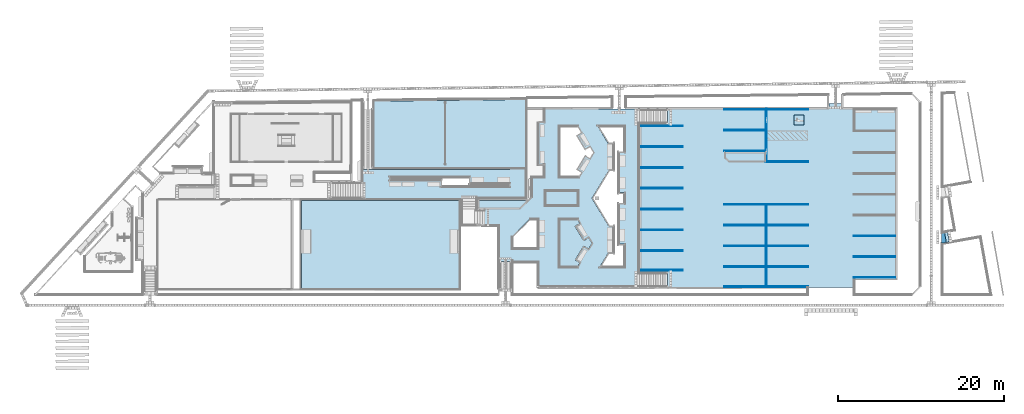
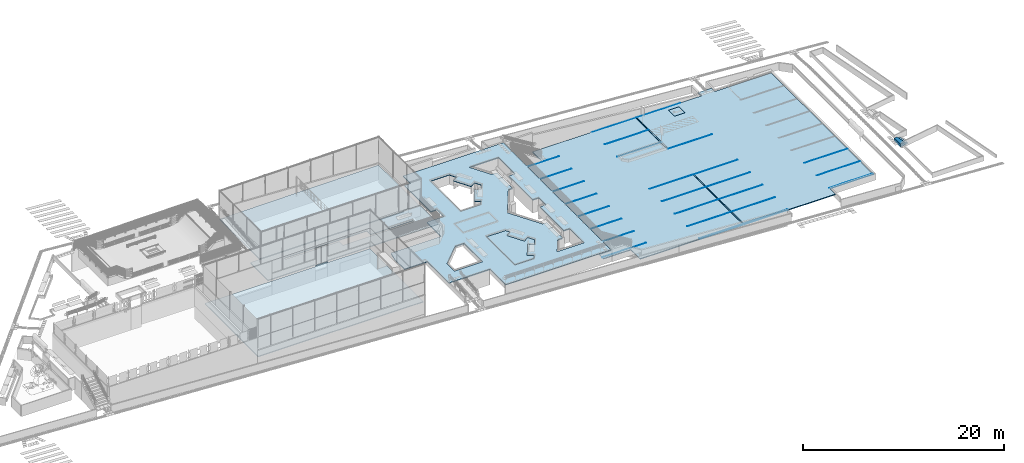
# One storey, part 14 of 237: 37 slabs, 5 openings.
"""IFC2X3 building model written with IfcOpenShell, lengths in millimetres."""

from ifc_helpers import new_model, entity, si_unit, converted_unit, derived_unit, money_unit, direction, frame, origin_with_axes, place, context, subcontext, project, spatial, polyline, outline, extrude, material, layer, layer_set, layer_usage, type_object, element, save


model = new_model("IFC2X3")

# Units and contexts
model_context = context("Model", 3, precision=0.01, world=origin_with_axes(), true_north=direction((0.0, 1.0)))
body_context = subcontext(model_context, "Body", "Model", "MODEL_VIEW")
ifc_project = project(units=[si_unit("LENGTHUNIT", "METRE", prefix="MILLI"), si_unit("AREAUNIT", "SQUARE_METRE"), si_unit("VOLUMEUNIT", "CUBIC_METRE"), converted_unit("PLANEANGLEUNIT", "DEGREE", entity("IfcPlaneAngleMeasure", 0.0174532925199), si_unit("PLANEANGLEUNIT", "RADIAN"), dimensions=[0, 0, 0, 0, 0, 0, 0]), money_unit("USD"), converted_unit("TIMEUNIT", "Year", entity("IfcTimeMeasure", 31556926.0), si_unit("TIMEUNIT", "SECOND"), dimensions=[0, 0, 1, 0, 0, 0, 0]), si_unit("MASSUNIT", "GRAM", prefix="KILO"), si_unit("THERMODYNAMICTEMPERATUREUNIT", "DEGREE_CELSIUS"), si_unit("LUMINOUSINTENSITYUNIT", "LUMEN"), si_unit("ENERGYUNIT", "JOULE", prefix="MEGA"), derived_unit("THERMALCONDUCTANCEUNIT", [(si_unit("POWERUNIT", "WATT"), 1), (si_unit("LENGTHUNIT", "METRE"), -1), (si_unit("THERMODYNAMICTEMPERATUREUNIT", "KELVIN"), -1)]), derived_unit("SPECIFICHEATCAPACITYUNIT", [(si_unit("ENERGYUNIT", "JOULE"), 1), (si_unit("MASSUNIT", "GRAM", prefix="KILO"), -1), (si_unit("THERMODYNAMICTEMPERATUREUNIT", "KELVIN"), -1)]), derived_unit("MASSDENSITYUNIT", [(si_unit("MASSUNIT", "GRAM", prefix="KILO"), 1), (si_unit("VOLUMEUNIT", "CUBIC_METRE"), -1)])], contexts=[model_context])

# Site, building, storey
site_placement = place(None, origin_with_axes())
site = spatial("IfcSite", under=ifc_project, at=site_placement, Name="Local", CompositionType="ELEMENT")
building_placement = place(site_placement, origin_with_axes())
building = spatial("IfcBuilding", under=site, at=building_placement, Name="Construção", CompositionType="ELEMENT")
storey_placement = place(building_placement, origin_with_axes())
storey = spatial("IfcBuildingStorey", under=building, at=storey_placement, Name="Pavimento Térreo", CompositionType="ELEMENT", Elevation=0.0)

# Slabs
ifc_material_1 = material(Name="Concreto")
ifc_layer_1 = layer(ifc_material_1, 10.0, ventilated="UNKNOWN")
ifc_layer_set_1 = layer_set([ifc_layer_1], Name="Concreto 10")
ifc_layer_usage_1 = layer_usage(ifc_layer_set_1, "AXIS3", "NEGATIVE", 10.0)
slab_type_1 = type_object("IfcSlabType", Name="Concreto 10", PredefinedType="FLOOR")
slab_1_placement = place(storey_placement, frame((105463.767403, 32451.4208928, -7265.0), z_axis=(0.0, 0.0, 1.0), x_axis=(1.0, 0.0, 0.0)))
element("IfcSlab", 1, at=slab_1_placement, inside=storey, type_object=slab_type_1, material=ifc_layer_usage_1, Name="Laje-023", PredefinedType="FLOOR", context=body_context, shape_type="SweptSolid", body=[
    extrude(outline(polyline([(0.0, 0.0), (-4999.90129339, 0.000986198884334), (-4999.90129339, -99.9989884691), (-0.000987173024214, -99.9999746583), (0.0, 0.0)])), frame((0.0, 0.0, -10.0), z_axis=(0.0, 0.0, 1.0), x_axis=(1.0, 0.0, 0.0)), (0.0, 0.0, 1.0), 10.0),
])
ifc_layer_usage_2 = layer_usage(ifc_layer_set_1, "AXIS3", "NEGATIVE", 10.0)
slab_2_placement = place(storey_placement, frame((115526.346992, 34448.6706914, -7260.0), z_axis=(0.0, 0.0, 1.0), x_axis=(1.0, 0.0, 0.0)))
element("IfcSlab", 2, at=slab_2_placement, inside=storey, type_object=slab_type_1, material=ifc_layer_usage_2, Name="Laje-023", PredefinedType="FLOOR", context=body_context, shape_type="SweptSolid", body=[
    extrude(outline(polyline([(0.0, 0.0), (-5086.47828093, 1.32356694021), (-5086.47828093, -98.6764077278), (0.0, -98.6764077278), (0.0, 0.0)])), frame((0.0, 0.0, -10.0), z_axis=(0.0, 0.0, 1.0), x_axis=(1.0, 0.0, 0.0)), (0.0, 0.0, 1.0), 10.0),
])
ifc_layer_usage_3 = layer_usage(ifc_layer_set_1, "AXIS3", "NEGATIVE", 10.0)
slab_3_placement = place(storey_placement, frame((105464.001018, 15094.4967771, -7265.0), z_axis=(0.0, 0.0, 1.0), x_axis=(1.0, 0.0, 0.0)))
element("IfcSlab", 3, at=slab_3_placement, inside=storey, type_object=slab_type_1, material=ifc_layer_usage_3, Name="Laje-023", PredefinedType="FLOOR", context=body_context, shape_type="SweptSolid", body=[
    extrude(outline(polyline([(0.0, 0.0), (-4999.90129339, 0.000986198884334), (-4999.90129339, -99.9989884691), (-0.000987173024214, -99.9999746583), (0.0, 0.0)])), frame((0.0, 0.0, -10.0), z_axis=(0.0, 0.0, 1.0), x_axis=(1.0, 0.0, 0.0)), (0.0, 0.0, 1.0), 10.0),
])
ifc_layer_usage_4 = layer_usage(ifc_layer_set_1, "AXIS3", "NEGATIVE", 10.0)
slab_4_placement = place(storey_placement, frame((115517.807364, 18011.0372034, -7260.0), z_axis=(0.0, 0.0, 1.0), x_axis=(1.0, 0.0, 0.0)))
element("IfcSlab", 4, at=slab_4_placement, inside=storey, type_object=slab_type_1, material=ifc_layer_usage_4, Name="Laje-023", PredefinedType="FLOOR", context=body_context, shape_type="SweptSolid", body=[
    extrude(outline(polyline([(0.0, 0.0), (0.0, -99.9999863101), (5049.47162906, -99.9999863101), (5049.47159418, 1.7258656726e-05), (0.0, 0.0)])), frame((0.0, 0.0, -10.0), z_axis=(0.0, 0.0, 1.0), x_axis=(1.0, 0.0, 0.0)), (0.0, 0.0, 1.0), 10.0),
])
ifc_layer_usage_5 = layer_usage(ifc_layer_set_1, "AXIS3", "NEGATIVE", 10.0)
slab_5_placement = place(storey_placement, frame((115510.492005, 23011.0307098, -7260.0), z_axis=(0.0, 0.0, 1.0), x_axis=(1.0, 0.0, 0.0)))
element("IfcSlab", 5, at=slab_5_placement, inside=storey, type_object=slab_type_1, material=ifc_layer_usage_5, Name="Laje-023", PredefinedType="FLOOR", context=body_context, shape_type="SweptSolid", body=[
    extrude(outline(polyline([(0.0, 0.0), (-5043.21136178, 0.000986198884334), (-5043.21136178, -99.9989884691), (-0.000987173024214, -99.9999746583), (0.0, 0.0)])), frame((0.0, 0.0, -10.0), z_axis=(0.0, 0.0, 1.0), x_axis=(1.0, 0.0, 0.0)), (0.0, 0.0, 1.0), 10.0),
])
ifc_layer_usage_6 = layer_usage(ifc_layer_set_1, "AXIS3", "NEGATIVE", 10.0)
slab_6_placement = place(storey_placement, frame((120567.280667, 34449.9942584, -7260.0), z_axis=(0.0, 0.0, 1.0), x_axis=(1.0, 0.0, 0.0)))
element("IfcSlab", 6, at=slab_6_placement, inside=storey, type_object=slab_type_1, material=ifc_layer_usage_6, Name="Laje-023", PredefinedType="FLOOR", context=body_context, shape_type="SweptSolid", body=[
    extrude(outline(polyline([(0.0, 0.0), (-5000.0, 0.0), (-5000.0, -99.999974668), (0.0, -99.999974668), (0.0, 0.0)])), frame((0.0, 0.0, -10.0), z_axis=(0.0, 0.0, 1.0), x_axis=(1.0, 0.0, 0.0)), (0.0, 0.0, 1.0), 10.0),
])
ifc_layer_usage_7 = layer_usage(ifc_layer_set_1, "AXIS3", "NEGATIVE", 10.0)
slab_7_placement = place(storey_placement, frame((115517.280643, 29449.994309, -7260.0), z_axis=(0.0, 0.0, 1.0), x_axis=(1.0, 0.0, 0.0)))
element("IfcSlab", 7, at=slab_7_placement, inside=storey, type_object=slab_type_1, material=ifc_layer_usage_7, Name="Laje-023", PredefinedType="FLOOR", context=body_context, shape_type="SweptSolid", body=[
    extrude(outline(polyline([(0.0, 0.0), (-5050.0, 0.0), (-5050.0, -99.999974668), (0.0, -99.999974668), (0.0, 0.0)])), frame((0.0, 0.0, -10.0), z_axis=(0.0, 0.0, 1.0), x_axis=(1.0, 0.0, 0.0)), (0.0, 0.0, 1.0), 10.0),
])
ifc_layer_usage_8 = layer_usage(ifc_layer_set_1, "AXIS3", "NEGATIVE", 10.0)
slab_8_placement = place(storey_placement, frame((131063.866073, 14222.7429127, -7269.1909271), z_axis=(0.0, 0.0, 1.0), x_axis=(1.0, 0.0, 0.0)))
element("IfcSlab", 8, at=slab_8_placement, inside=storey, type_object=slab_type_1, material=ifc_layer_usage_8, Name="Laje-023", PredefinedType="FLOOR", context=body_context, shape_type="SweptSolid", body=[
    extrude(outline(polyline([(0.0, 0.0), (-5000.0, 0.0), (-5000.0, -99.999974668), (0.0, -99.999974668), (0.0, 0.0)])), frame((0.0, 0.0, -10.0), z_axis=(0.0, 0.0, 1.0), x_axis=(1.0, 0.0, 0.0)), (0.0, 0.0, 1.0), 10.0),
])
ifc_layer_usage_9 = layer_usage(ifc_layer_set_1, "AXIS3", "NEGATIVE", 10.0)
slab_9_placement = place(storey_placement, frame((115517.280643, 31949.9942837, -7260.0), z_axis=(0.0, 0.0, 1.0), x_axis=(1.0, 0.0, 0.0)))
element("IfcSlab", 9, at=slab_9_placement, inside=storey, type_object=slab_type_1, material=ifc_layer_usage_9, Name="Laje-023", PredefinedType="FLOOR", context=body_context, shape_type="SweptSolid", body=[
    extrude(outline(polyline([(0.0, 0.0), (-5050.0, 0.0), (-5050.0, -99.999974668), (0.0, -99.999974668), (0.0, 0.0)])), frame((0.0, 0.0, -10.0), z_axis=(0.0, 0.0, 1.0), x_axis=(1.0, 0.0, 0.0)), (0.0, 0.0, 1.0), 10.0),
])
ifc_layer_usage_10 = layer_usage(ifc_layer_set_1, "AXIS3", "NEGATIVE", 10.0)
slab_10_placement = place(storey_placement, frame((115517.713784, 15511.0371935, -7260.0), z_axis=(0.0, 0.0, 1.0), x_axis=(1.0, 0.0, 0.0)))
element("IfcSlab", 10, at=slab_10_placement, inside=storey, type_object=slab_type_1, material=ifc_layer_usage_10, Name="Laje-023", PredefinedType="FLOOR", context=body_context, shape_type="SweptSolid", body=[
    extrude(outline(polyline([(0.0, 0.0), (-5050.43314015, 0.000986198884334), (-5050.43314015, -99.9989884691), (-0.000987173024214, -99.9999746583), (0.0, 0.0)])), frame((0.0, 0.0, -10.0), z_axis=(0.0, 0.0, 1.0), x_axis=(1.0, 0.0, 0.0)), (0.0, 0.0, 1.0), 10.0),
])
ifc_layer_usage_11 = layer_usage(ifc_layer_set_1, "AXIS3", "NEGATIVE", 10.0)
slab_11_placement = place(storey_placement, frame((115517.712796, 13094.5098924, -7264.59114242), z_axis=(0.0, 0.0, 1.0), x_axis=(1.0, 0.0, 0.0)))
element("IfcSlab", 11, at=slab_11_placement, inside=storey, type_object=slab_type_1, material=ifc_layer_usage_11, Name="Laje-023", PredefinedType="FLOOR", context=body_context, shape_type="SweptSolid", body=[
    extrude(outline(polyline([(0.0, 0.0), (0.0, -100.000012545), (5049.56794002, -100.189026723), (5049.56787728, -3.20542330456e-05), (0.0, 0.0)])), frame((0.0, 0.0, -10.0), z_axis=(0.0, 0.0, 1.0), x_axis=(1.0, 0.0, 0.0)), (0.0, 0.0, 1.0), 10.0),
])
ifc_layer_usage_12 = layer_usage(ifc_layer_set_1, "AXIS3", "NEGATIVE", 10.0)
slab_12_placement = place(storey_placement, frame((120567.277214, 23011.0297435, -7260.0), z_axis=(0.0, 0.0, 1.0), x_axis=(1.0, 0.0, 0.0)))
element("IfcSlab", 12, at=slab_12_placement, inside=storey, type_object=slab_type_1, material=ifc_layer_usage_12, Name="Laje-023", PredefinedType="FLOOR", context=body_context, shape_type="SweptSolid", body=[
    extrude(outline(polyline([(0.0, 0.0), (-5056.78619618, 0.000966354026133), (-5056.78619618, -99.999008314), (3.48859856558e-05, -99.9999746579), (0.0, 0.0)])), frame((0.0, 0.0, -10.0), z_axis=(0.0, 0.0, 1.0), x_axis=(1.0, 0.0, 0.0)), (0.0, 0.0, 1.0), 10.0),
])
ifc_layer_usage_13 = layer_usage(ifc_layer_set_1, "AXIS3", "NEGATIVE", 10.0)
slab_13_placement = place(storey_placement, frame((115517.712796, 15511.0372141, -7260.0), z_axis=(0.0, 0.0, 1.0), x_axis=(1.0, 0.0, 0.0)))
element("IfcSlab", 13, at=slab_13_placement, inside=storey, type_object=slab_type_1, material=ifc_layer_usage_13, Name="Laje-023", PredefinedType="FLOOR", context=body_context, shape_type="SweptSolid", body=[
    extrude(outline(polyline([(0.0, 0.0), (0.0, -99.9999952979), (5049.56706914, -99.9999952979), (5049.56703425, 1.72919509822e-05), (0.0, 0.0)])), frame((0.0, 0.0, -10.0), z_axis=(0.0, 0.0, 1.0), x_axis=(1.0, 0.0, 0.0)), (0.0, 0.0, 1.0), 10.0),
])
ifc_layer_usage_14 = layer_usage(ifc_layer_set_1, "AXIS3", "NEGATIVE", 10.0)
slab_14_placement = place(storey_placement, frame((115517.713784, 13094.5098018, -7260.0), z_axis=(0.0, 0.0, 1.0), x_axis=(1.0, 0.0, 0.0)))
element("IfcSlab", 14, at=slab_14_placement, inside=storey, type_object=slab_type_1, material=ifc_layer_usage_14, Name="Laje-023", PredefinedType="FLOOR", context=body_context, shape_type="SweptSolid", body=[
    extrude(outline(polyline([(0.0, 0.0), (-5050.43314015, 0.000986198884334), (-5050.43314015, -99.9999161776), (-0.000987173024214, -99.9999746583), (0.0, 0.0)])), frame((0.0, 0.0, -10.0), z_axis=(0.0, 0.0, 1.0), x_axis=(1.0, 0.0, 0.0)), (0.0, 0.0, 1.0), 10.0),
])
ifc_layer_usage_15 = layer_usage(ifc_layer_set_1, "AXIS3", "NEGATIVE", 10.0)
slab_15_placement = place(storey_placement, frame((115467.280693, 12994.5098857, -7260.0), z_axis=(0.0, 0.0, 1.0), x_axis=(1.0, 0.0, 0.0)))
element("IfcSlab", 15, at=slab_15_placement, inside=storey, type_object=slab_type_1, material=ifc_layer_usage_15, Name="Laje-023", PredefinedType="FLOOR", context=body_context, shape_type="SweptSolid", body=[
    extrude(outline(polyline([(0.0, 0.0), (99.9999795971, 0.0), (100.000128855, 10016.520813), (3.79869715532, 10016.5208319), (0.0, 0.0)])), frame((0.0, 0.0, -10.0), z_axis=(0.0, 0.0, 1.0), x_axis=(1.0, 0.0, 0.0)), (0.0, 0.0, 1.0), 10.0),
])
ifc_layer_usage_16 = layer_usage(ifc_layer_set_1, "AXIS3", "NEGATIVE", 10.0)
slab_16_placement = place(storey_placement, frame((115517.808352, 18011.0371917, -7260.0), z_axis=(0.0, 0.0, 1.0), x_axis=(1.0, 0.0, 0.0)))
element("IfcSlab", 16, at=slab_16_placement, inside=storey, type_object=slab_type_1, material=ifc_layer_usage_16, Name="Laje-023", PredefinedType="FLOOR", context=body_context, shape_type="SweptSolid", body=[
    extrude(outline(polyline([(0.0, 0.0), (-5050.52770808, 0.000986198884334), (-5050.52770808, -99.9989884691), (-0.000987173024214, -99.9999746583), (0.0, 0.0)])), frame((0.0, 0.0, -10.0), z_axis=(0.0, 0.0, 1.0), x_axis=(1.0, 0.0, 0.0)), (0.0, 0.0, 1.0), 10.0),
])
ifc_layer_usage_17 = layer_usage(ifc_layer_set_1, "AXIS3", "NEGATIVE", 10.0)
slab_17_placement = place(storey_placement, frame((115512.470154, 20511.0314924, -7260.0), z_axis=(0.0, 0.0, 1.0), x_axis=(1.0, 0.0, 0.0)))
element("IfcSlab", 17, at=slab_17_placement, inside=storey, type_object=slab_type_1, material=ifc_layer_usage_17, Name="Laje-023", PredefinedType="FLOOR", context=body_context, shape_type="SweptSolid", body=[
    extrude(outline(polyline([(0.0, 0.0), (-5045.18951068, 0.000986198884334), (-5045.18951068, -99.9989884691), (-0.000987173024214, -99.9999746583), (0.0, 0.0)])), frame((0.0, 0.0, -10.0), z_axis=(0.0, 0.0, 1.0), x_axis=(1.0, 0.0, 0.0)), (0.0, 0.0, 1.0), 10.0),
])
ifc_layer_usage_18 = layer_usage(ifc_layer_set_1, "AXIS3", "NEGATIVE", 10.0)
slab_18_placement = place(storey_placement, frame((131063.866073, 16719.743985, -7269.1909271), z_axis=(0.0, 0.0, 1.0), x_axis=(1.0, 0.0, 0.0)))
element("IfcSlab", 18, at=slab_18_placement, inside=storey, type_object=slab_type_1, material=ifc_layer_usage_18, Name="Laje-023", PredefinedType="FLOOR", context=body_context, shape_type="SweptSolid", body=[
    extrude(outline(polyline([(0.0, 0.0), (-5000.0, 0.0), (-5000.0, -99.999974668), (0.0, -99.999974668), (0.0, 0.0)])), frame((0.0, 0.0, -10.0), z_axis=(0.0, 0.0, 1.0), x_axis=(1.0, 0.0, 0.0)), (0.0, 0.0, 1.0), 10.0),
])
ifc_layer_usage_19 = layer_usage(ifc_layer_set_1, "AXIS3", "NEGATIVE", 10.0)
slab_19_placement = place(storey_placement, frame((131063.866073, 19219.743985, -7269.1909271), z_axis=(0.0, 0.0, 1.0), x_axis=(1.0, 0.0, 0.0)))
element("IfcSlab", 19, at=slab_19_placement, inside=storey, type_object=slab_type_1, material=ifc_layer_usage_19, Name="Laje-023", PredefinedType="FLOOR", context=body_context, shape_type="SweptSolid", body=[
    extrude(outline(polyline([(0.0, 0.0), (-5000.0, 0.0), (-5000.0, -99.999974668), (0.0, -99.999974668), (0.0, 0.0)])), frame((0.0, 0.0, -10.0), z_axis=(0.0, 0.0, 1.0), x_axis=(1.0, 0.0, 0.0)), (0.0, 0.0, 1.0), 10.0),
])
ifc_layer_usage_20 = layer_usage(ifc_layer_set_1, "AXIS3", "NEGATIVE", 10.0)
slab_20_placement = place(storey_placement, frame((115512.469167, 20511.031464, -7260.0), z_axis=(0.0, 0.0, 1.0), x_axis=(1.0, 0.0, 0.0)))
element("IfcSlab", 20, at=slab_20_placement, inside=storey, type_object=slab_type_1, material=ifc_layer_usage_20, Name="Laje-023", PredefinedType="FLOOR", context=body_context, shape_type="SweptSolid", body=[
    extrude(outline(polyline([(0.0, 0.0), (0.0, -99.9999340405), (5054.80895431, -100.000913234), (5054.80891942, -0.000960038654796), (0.0, 0.0)])), frame((0.0, 0.0, -10.0), z_axis=(0.0, 0.0, 1.0), x_axis=(1.0, 0.0, 0.0)), (0.0, 0.0, 1.0), 10.0),
])
ifc_layer_usage_21 = layer_usage(ifc_layer_set_1, "AXIS3", "NEGATIVE", 10.0)
slab_21_placement = place(storey_placement, frame((105463.76691, 29951.4208928, -7265.0), z_axis=(0.0, 0.0, 1.0), x_axis=(1.0, 0.0, 0.0)))
element("IfcSlab", 21, at=slab_21_placement, inside=storey, type_object=slab_type_1, material=ifc_layer_usage_21, Name="Laje-023", PredefinedType="FLOOR", context=body_context, shape_type="SweptSolid", body=[
    extrude(outline(polyline([(0.0, 0.0), (-4999.90129339, 0.000986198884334), (-4999.90129339, -99.9989884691), (-0.000987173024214, -99.9999746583), (0.0, 0.0)])), frame((0.0, 0.0, -10.0), z_axis=(0.0, 0.0, 1.0), x_axis=(1.0, 0.0, 0.0)), (0.0, 0.0, 1.0), 10.0),
])
ifc_layer_usage_22 = layer_usage(ifc_layer_set_1, "AXIS3", "NEGATIVE", 10.0)
slab_22_placement = place(storey_placement, frame((105463.764445, 17451.4208928, -7265.0), z_axis=(0.0, 0.0, 1.0), x_axis=(1.0, 0.0, 0.0)))
element("IfcSlab", 22, at=slab_22_placement, inside=storey, type_object=slab_type_1, material=ifc_layer_usage_22, Name="Laje-023", PredefinedType="FLOOR", context=body_context, shape_type="SweptSolid", body=[
    extrude(outline(polyline([(0.0, 0.0), (-4999.90129339, 0.000986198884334), (-4999.90129339, -99.9989884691), (-0.000987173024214, -99.9999746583), (0.0, 0.0)])), frame((0.0, 0.0, -10.0), z_axis=(0.0, 0.0, 1.0), x_axis=(1.0, 0.0, 0.0)), (0.0, 0.0, 1.0), 10.0),
])
ifc_layer_usage_23 = layer_usage(ifc_layer_set_1, "AXIS3", "NEGATIVE", 10.0)
slab_23_placement = place(storey_placement, frame((105463.764938, 19951.4208928, -7265.0), z_axis=(0.0, 0.0, 1.0), x_axis=(1.0, 0.0, 0.0)))
element("IfcSlab", 23, at=slab_23_placement, inside=storey, type_object=slab_type_1, material=ifc_layer_usage_23, Name="Laje-023", PredefinedType="FLOOR", context=body_context, shape_type="SweptSolid", body=[
    extrude(outline(polyline([(0.0, 0.0), (-4999.90129339, 0.000986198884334), (-4999.90129339, -99.9989884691), (-0.000987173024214, -99.9999746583), (0.0, 0.0)])), frame((0.0, 0.0, -10.0), z_axis=(0.0, 0.0, 1.0), x_axis=(1.0, 0.0, 0.0)), (0.0, 0.0, 1.0), 10.0),
])
ifc_layer_usage_24 = layer_usage(ifc_layer_set_1, "AXIS3", "NEGATIVE", 10.0)
slab_24_placement = place(storey_placement, frame((105463.765431, 22451.4208928, -7265.0), z_axis=(0.0, 0.0, 1.0), x_axis=(1.0, 0.0, 0.0)))
element("IfcSlab", 24, at=slab_24_placement, inside=storey, type_object=slab_type_1, material=ifc_layer_usage_24, Name="Laje-023", PredefinedType="FLOOR", context=body_context, shape_type="SweptSolid", body=[
    extrude(outline(polyline([(0.0, 0.0), (-4999.90129339, 0.000986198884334), (-4999.90129339, -99.9989884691), (-0.000987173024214, -99.9999746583), (0.0, 0.0)])), frame((0.0, 0.0, -10.0), z_axis=(0.0, 0.0, 1.0), x_axis=(1.0, 0.0, 0.0)), (0.0, 0.0, 1.0), 10.0),
])
ifc_layer_usage_25 = layer_usage(ifc_layer_set_1, "AXIS3", "NEGATIVE", 10.0)
slab_25_placement = place(storey_placement, frame((105463.765924, 24951.4208928, -7265.0), z_axis=(0.0, 0.0, 1.0), x_axis=(1.0, 0.0, 0.0)))
element("IfcSlab", 25, at=slab_25_placement, inside=storey, type_object=slab_type_1, material=ifc_layer_usage_25, Name="Laje-023", PredefinedType="FLOOR", context=body_context, shape_type="SweptSolid", body=[
    extrude(outline(polyline([(0.0, 0.0), (-4999.90129339, 0.000986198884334), (-4999.90129339, -99.9989884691), (-0.000987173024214, -99.9999746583), (0.0, 0.0)])), frame((0.0, 0.0, -10.0), z_axis=(0.0, 0.0, 1.0), x_axis=(1.0, 0.0, 0.0)), (0.0, 0.0, 1.0), 10.0),
])
ifc_layer_usage_26 = layer_usage(ifc_layer_set_1, "AXIS3", "NEGATIVE", 10.0)
slab_26_placement = place(storey_placement, frame((105463.766417, 27451.4208928, -7265.0), z_axis=(0.0, 0.0, 1.0), x_axis=(1.0, 0.0, 0.0)))
element("IfcSlab", 26, at=slab_26_placement, inside=storey, type_object=slab_type_1, material=ifc_layer_usage_26, Name="Laje-023", PredefinedType="FLOOR", context=body_context, shape_type="SweptSolid", body=[
    extrude(outline(polyline([(0.0, 0.0), (-4999.90129339, 0.000986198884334), (-4999.90129339, -99.9989884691), (-0.000987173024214, -99.9999746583), (0.0, 0.0)])), frame((0.0, 0.0, -10.0), z_axis=(0.0, 0.0, 1.0), x_axis=(1.0, 0.0, 0.0)), (0.0, 0.0, 1.0), 10.0),
])
ifc_layer_usage_27 = layer_usage(ifc_layer_set_1, "AXIS3", "NEGATIVE", 10.0)
slab_27_placement = place(storey_placement, frame((115520.027776, 34495.5388939, -7264.59114242), z_axis=(0.0, 0.0, 1.0), x_axis=(1.0, 0.0, 0.0)))
element("IfcSlab", 27, at=slab_27_placement, inside=storey, type_object=slab_type_1, material=ifc_layer_usage_27, Name="Laje-023", PredefinedType="FLOOR", context=body_context, shape_type="SweptSolid", body=[
    extrude(outline(polyline([(0.0, 0.0), (-52.7470835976, -100.000008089), (-52.7470835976, -6457.54461025), (47.2529244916, -6457.54461025), (47.2529244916, 0.0), (0.0, 0.0)])), frame((0.0, 0.0, -10.0), z_axis=(0.0, 0.0, 1.0), x_axis=(1.0, 0.0, 0.0)), (0.0, 0.0, 1.0), 10.0),
])
ifc_layer_usage_28 = layer_usage(ifc_layer_set_1, "AXIS3", "NEGATIVE", 10.0)
slab_28_placement = place(storey_placement, frame((120567.275443, 28139.0549897, -7260.0), z_axis=(0.0, 0.0, 1.0), x_axis=(1.0, 0.0, 0.0)))
element("IfcSlab", 28, at=slab_28_placement, inside=storey, type_object=slab_type_1, material=ifc_layer_usage_28, Name="Laje-023", PredefinedType="FLOOR", context=body_context, shape_type="SweptSolid", body=[
    extrude(outline(polyline([(0.0, 0.0), (-5050.0, 0.0), (-5050.0, -99.999974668), (0.0, -99.999974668), (0.0, 0.0)])), frame((0.0, 0.0, -10.0), z_axis=(0.0, 0.0, 1.0), x_axis=(1.0, 0.0, 0.0)), (0.0, 0.0, 1.0), 10.0),
])

# Slab, openings
ifc_layer_2 = layer(ifc_material_1, 100.0, ventilated="UNKNOWN")
ifc_layer_set_2 = layer_set([ifc_layer_2], Name="Concreto 100")
ifc_layer_usage_29 = layer_usage(ifc_layer_set_2, "AXIS3", "NEGATIVE", 100.0)
slab_type_2 = type_object("IfcSlabType", Name="Concreto 100", PredefinedType="FLOOR")
slab_29_placement = place(storey_placement, frame((80768.9594957, 22372.4194413, -4994.60754302), z_axis=(0.0, 0.0, 1.0), x_axis=(1.0, 0.0, 0.0)))
slab_29 = element("IfcSlab", 29, at=slab_29_placement, inside=storey, type_object=slab_type_2, material=ifc_layer_usage_29, Name="Laje-036", PredefinedType="FLOOR", context=body_context, shape_type="SweptSolid", body=[
    extrude(outline(polyline([(0.0, 0.0), (3.40778247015, -2000.00018631), (2617.53226756, -2000.02001574), (2617.35700103, -6300.60791097), (7371.08529529, -6299.40535235), (7371.44286458, -9379.9824964), (19495.1955799, -9376.90541755), (19494.9064541, 10079.0016768), (19502.5973922, 12083.3860848), (7951.47110837, 12080.8044217), (7950.59701457, 10575.439943), (7247.56589396, 10575.439943), (7247.56589396, 5324.8710371), (7947.81769691, 5324.8710371), (7947.58614041, 3939.87084252), (5993.94842682, 3939.88491501), (5994.32294707, 1084.70307709), (200.040681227, 1087.44817406), (0.0, 0.0)])), frame((0.0, 0.0, -100.0), z_axis=(0.0, 0.0, 1.0), x_axis=(1.0, 0.0, 0.0)), (0.0, 0.0, 1.0), 100.0),
])
opening_1_placement = place(slab_29_placement, frame((4117.53160772, -4800.60473285, 0.0), z_axis=(0.0, 0.0, 1.0), x_axis=(1.0, 0.0, 0.0)))
element("IfcOpeningElement", 30, at=opening_1_placement, cuts=slab_29, Name="Abertura Laje", context=body_context, shape_type="SweptSolid", body=[
    extrude(outline(polyline([(0.0, 0.0), (3253.55336774, 0.0), (3253.55336774, 3684.74739179), (2197.37971457, 3684.74739179), (-0.0383795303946, 1487.32929769), (0.0, 0.0)])), frame((0.0, 0.0, -100.0), z_axis=(0.0, 0.0, 1.0), x_axis=(1.0, 0.0, 0.0)), (0.0, 0.0, 1.0), 100.0),
])
opening_2_placement = place(slab_29_placement, frame((12050.1903496, -6874.82837233, 0.0), z_axis=(0.0, 0.0, 1.0), x_axis=(0.51829640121, 0.855201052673, 0.0)))
element("IfcOpeningElement", 31, at=opening_2_placement, cuts=slab_29, Name="Abertura Laje", context=body_context, shape_type="SweptSolid", body=[
    extrude(outline(polyline([(0.0, 0.0), (517.459579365, 0.0), (517.460040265, 670.307242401), (2491.63823209, 670.306842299), (2491.63813369, -29.6935679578), (3283.60342428, -29.6933759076), (3647.90453619, 668.220741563), (3027.35772141, 992.137386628), (3964.21379424, 2786.93202991), (4583.00509699, 2463.93243338), (4822.45286923, 2922.6577298), (3701.69587429, 4771.93269993), (-1120.76810129, 1849.29329586), (0.0, 0.0)])), frame((0.0, 0.0, -100.0), z_axis=(0.0, 0.0, 1.0), x_axis=(1.0, 0.0, 0.0)), (0.0, 0.0, 1.0), 100.0),
])
opening_3_placement = place(slab_29_placement, frame((12165.8397084, 3903.09589632, 0.0), z_axis=(0.0, 0.0, 1.0), x_axis=(0.518296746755, 0.855200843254, 0.0)))
element("IfcOpeningElement", 32, at=opening_3_placement, cuts=slab_29, Name="Abertura Laje", context=body_context, shape_type="SweptSolid", body=[
    extrude(outline(polyline([(0.0, 0.0), (621.908292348, 0.0), (621.907834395, 700.00024449), (2637.10123244, 700.000204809), (2637.10135886, 0.000507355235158), (3429.06698099, 0.000472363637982), (3793.36720585, 697.9151183), (3172.82042596, 1021.83123911), (4107.40767554, 2812.2800159), (4727.9541239, 2488.36444212), (5119.07531859, 3237.65986042), (3998.31840528, 5086.93301011), (-1180.70870609, 1948.19490458), (0.0, 0.0)])), frame((0.0, 0.0, -100.0), z_axis=(0.0, 0.0, 1.0), x_axis=(1.0, 0.0, 0.0)), (0.0, 0.0, 1.0), 100.0),
])
opening_4_placement = place(slab_29_placement, frame((15833.0057571, -2084.85221076, 0.0), z_axis=(0.0, 0.0, 1.0), x_axis=(1.0, 0.0, 0.0)))
element("IfcOpeningElement", 33, at=opening_4_placement, cuts=slab_29, Name="Abertura Laje", context=body_context, shape_type="SweptSolid", body=[
    extrude(outline(polyline([(0.0, 0.0), (493.459694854, 0.0), (493.459694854, -3145.10944596), (-90.9079945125, -3145.10944596), (-1160.50872639, -4909.97456081), (1943.46010178, -4909.97456081), (1943.46010178, -2085.16980137), (1243.46000459, -2085.16980137), (1243.46000459, 2711.00049658), (1943.46010178, 2711.00049658), (1943.46010178, 4115.77830284), (1240.99923704, 4115.77830284), (1243.45712613, 8913.85414447), (1961.8227881, 8913.85414447), (1961.8227881, 12163.8538875), (-1411.34070596, 12163.8538875), (-84.8273975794, 9975.07758435), (493.459694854, 9975.07758435), (493.459694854, 6835.10971614), (0.0, 6835.10971614), (-2069.7885649, 3419.91264056), (0.0, 0.0)])), frame((0.0, 0.0, -100.0), z_axis=(0.0, 0.0, 1.0), x_axis=(1.0, 0.0, 0.0)), (0.0, 0.0, 1.0), 100.0),
])

# Slab
ifc_layer_usage_30 = layer_usage(ifc_layer_set_2, "AXIS3", "NEGATIVE", 100.0)
slab_30_placement = place(storey_placement, frame((92819.1497287, 21136.5610382, -4994.60754302), z_axis=(0.0, 0.0, 1.0), x_axis=(1.0, 0.0, 0.0)))
element("IfcSlab", 34, at=slab_30_placement, inside=storey, type_object=slab_type_2, material=ifc_layer_usage_30, Name="Laje-036", PredefinedType="FLOOR", context=body_context, shape_type="SweptSolid", body=[
    extrude(outline(polyline([(0.0, 0.0), (-2162.38640787, 0.0), (-2162.40793291, -5638.96987484), (0.0, -5638.96987484), (268.19757988, -5196.4379094), (-305.049804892, -4849.01992997), (718.160214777, -3160.70066449), (1316.80086223, -3523.50829288), (1727.27371225, -2846.21897072), (1319.23241746, -2172.94176871), (720.591770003, -2535.7493971), (-328.749404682, -804.313145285), (268.19757988, -442.531965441), (0.0, 0.0)])), frame((0.0, 0.0, -100.0), z_axis=(0.0, 0.0, 1.0), x_axis=(1.0, 0.0, 0.0)), (0.0, 0.0, 1.0), 100.0),
])

# Slab, opening
ifc_layer_usage_31 = layer_usage(ifc_layer_set_2, "AXIS3", "NEGATIVE", 100.0)
slab_31_placement = place(storey_placement, frame((66962.5028921, 27192.3083888, -3507.05726823), z_axis=(0.0, 0.0, 1.0), x_axis=(1.0, 0.0, 0.0)))
slab_31 = element("IfcSlab", 35, at=slab_31_placement, inside=storey, type_object=slab_type_2, material=ifc_layer_usage_31, Name="Laje-036", PredefinedType="FLOOR", context=body_context, shape_type="SweptSolid", body=[
    extrude(outline(polyline([(0.0, 0.0), (0.0, -1534.58306973), (-19.4354307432, -1534.58306973), (-20.0, -3534.58306973), (5367.45659242, -3536.10386592), (5367.45396974, -3736.103971), (6806.8170813, -3735.38821775), (6806.71765788, -3535.38835108), (19600.3879883, -3535.0907961), (19600.3879883, 199.999866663), (17705.5547428, 199.999866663), (17705.7428605, 0.42725844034), (0.0, 0.0)])), frame((0.0, 0.0, -100.0), z_axis=(0.0, 0.0, 1.0), x_axis=(1.0, 0.0, 0.0)), (0.0, 0.0, 1.0), 100.0),
])
opening_5_placement = place(slab_31_placement, frame((3319.94090387, -1265.10089299, 0.0), z_axis=(0.0, 0.0, 1.0), x_axis=(1.0, -2.30983375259e-08, 0.0)))
element("IfcOpeningElement", 36, at=opening_5_placement, cuts=slab_31, Name="Abertura Laje", context=body_context, shape_type="SweptSolid", body=[
    extrude(outline(polyline([(0.0, 0.0), (6184.60981227, 0.0), (6184.6098296, -749.999738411), (14314.6097979, -749.999550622), (14314.6097922, -504.898645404), (9514.60989276, -504.898756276), (9514.60987544, 245.100982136), (-5.37082511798e-06, 245.100881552), (0.0, 0.0)])), frame((0.0, 0.0, -100.0), z_axis=(0.0, 0.0, 1.0), x_axis=(1.0, 0.0, 0.0)), (0.0, 0.0, 1.0), 100.0),
])

# Slabs
ifc_layer_usage_32 = layer_usage(ifc_layer_set_2, "AXIS3", "NEGATIVE", 100.0)
slab_32_placement = place(storey_placement, frame((103623.800832, 32451.4214342, -7270.0), z_axis=(0.0, 0.0, 1.0), x_axis=(1.0, 0.0, 0.0)))
element("IfcSlab", 37, at=slab_32_placement, inside=storey, type_object=slab_type_2, material=ifc_layer_usage_32, Name="Laje-036", PredefinedType="FLOOR", context=body_context, shape_type="SweptSolid", body=[
    extrude(outline(polyline([(0.0, 0.0), (-3159.93475873, 2.7773844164), (-3159.73089116, -17609.9994797), (-9.43123883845, -17609.9856383), (-12.9806388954, -19456.9659077), (22440.0652413, -19457.1011043), (22440.0652413, -18328.6784962), (27440.0652413, -18328.6784962), (27440.0652413, 1995.55489918), (20939.4137884, 1995.55489918), (20939.1282288, 2666.57952201), (19439.1282288, 2666.57952201), (19439.1282288, 1995.55489918), (0.0650449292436, 2004.38409184), (0.0, 0.0)])), frame((0.0, 0.0, -100.0), z_axis=(0.0, 0.0, 1.0), x_axis=(1.0, 0.0, 0.0)), (0.0, 0.0, 1.0), 100.0),
])
ifc_layer_3 = layer(ifc_material_1, 345.9279934, ventilated="UNKNOWN")
ifc_layer_set_3 = layer_set([ifc_layer_3], Name="Concreto 345.928")
ifc_layer_usage_33 = layer_usage(ifc_layer_set_3, "AXIS3", "NEGATIVE", 345.9279934)
slab_type_3 = type_object("IfcSlabType", Name="Concreto 346", PredefinedType="FLOOR")
slab_33_placement = place(storey_placement, frame((136613.385522, 18295.507999, -8117.8029365), z_axis=(0.0, 0.0, 1.0), x_axis=(1.0, 0.0, 0.0)))
element("IfcSlab", 38, at=slab_33_placement, inside=storey, type_object=slab_type_3, material=ifc_layer_usage_33, Name="Laje-037", PredefinedType="FLOOR", context=body_context, shape_type="SweptSolid", body=[
    extrude(outline(polyline([(0.0, 0.0), (571.366263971, 101.325936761), (359.630172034, 1295.28349872), (0.237757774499, 1231.548951), (0.0, 0.0)])), frame((0.0, 0.0, -345.9279934), z_axis=(0.0, 0.0, 1.0), x_axis=(1.0, 0.0, 0.0)), (0.0, 0.0, 1.0), 345.9279934),
])
ifc_layer_4 = layer(ifc_material_1, 172.6279934, ventilated="UNKNOWN")
ifc_layer_set_4 = layer_set([ifc_layer_4], Name="Concreto 172.628")
ifc_layer_usage_34 = layer_usage(ifc_layer_set_4, "AXIS3", "NEGATIVE", 172.6279934)
slab_type_4 = type_object("IfcSlabType", Name="Concreto 173", PredefinedType="FLOOR")
slab_34_placement = place(storey_placement, frame((137184.751786, 18396.8339358, -8291.1029365), z_axis=(0.0, 0.0, 1.0), x_axis=(1.0, 0.0, 0.0)))
element("IfcSlab", 39, at=slab_34_placement, inside=storey, type_object=slab_type_4, material=ifc_layer_usage_34, Name="Laje-037", PredefinedType="FLOOR", context=body_context, shape_type="SweptSolid", body=[
    extrude(outline(polyline([(0.0, 0.0), (354.967703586, 62.9498753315), (146.924210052, 1257.63388259), (-211.736091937, 1193.95756196), (0.0, 0.0)])), frame((0.0, 0.0, -172.6279934), z_axis=(0.0, 0.0, 1.0), x_axis=(1.0, 0.0, 0.0)), (0.0, 0.0, 1.0), 172.6279934),
])
ifc_material_2 = material(Name="Areia")
ifc_layer_5 = layer(ifc_material_2, 100.0, ventilated="UNKNOWN")
ifc_layer_set_5 = layer_set([ifc_layer_5], Name="Areia 100")
ifc_layer_usage_35 = layer_usage(ifc_layer_set_5, "AXIS3", "NEGATIVE", 100.0)
slab_type_5 = type_object("IfcSlabType", Name="Areia 100", PredefinedType="FLOOR")
slab_35_placement = place(storey_placement, frame((68163.0884456, 35392.3167596, -3607.05726823), z_axis=(0.0, 0.0, 1.0), x_axis=(1.0, 0.0, 0.0)))
element("IfcSlab", 40, at=slab_35_placement, inside=storey, type_object=slab_type_5, material=ifc_layer_usage_35, Name="Laje-036", PredefinedType="FLOOR", context=body_context, shape_type="SweptSolid", body=[
    extrude(outline(polyline([(0.0, 0.0), (-0.469343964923, -8000.0085041), (18399.8024348, -8000.00398463), (18399.8024348, 200.488025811), (0.0, 0.0)])), frame((0.0, 0.0, -100.0), z_axis=(0.0, 0.0, 1.0), x_axis=(1.0, 0.0, 0.0)), (0.0, 0.0, 1.0), 100.0),
])
ifc_layer_usage_36 = layer_usage(ifc_layer_set_5, "AXIS3", "NEGATIVE", 100.0)
slab_36_placement = place(storey_placement, frame((59565.8740487, 23456.451638, -3607.05726823), z_axis=(0.0, 0.0, 1.0), x_axis=(1.0, 0.0, 0.0)))
element("IfcSlab", 41, at=slab_36_placement, inside=storey, type_object=slab_type_5, material=ifc_layer_usage_36, Name="Laje-036", PredefinedType="FLOOR", context=body_context, shape_type="SweptSolid", body=[
    extrude(outline(polyline([(0.0, 0.0), (-0.154566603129, -10633.8280369), (19003.1097801, -10632.0356717), (19003.1097801, 1.79233228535), (0.0, 0.0)])), frame((0.0, 0.0, -100.0), z_axis=(0.0, 0.0, 1.0), x_axis=(1.0, 0.0, 0.0)), (0.0, 0.0, 1.0), 100.0),
])
ifc_layer_6 = layer(ifc_material_1, 9.0, ventilated="UNKNOWN")
ifc_layer_set_6 = layer_set([ifc_layer_6], Name="Concreto 9")
ifc_layer_usage_37 = layer_usage(ifc_layer_set_6, "AXIS3", "NEGATIVE", 9.0)
slab_type_6 = type_object("IfcSlabType", Name="Concreto 9", PredefinedType="FLOOR")
slab_37_placement = place(storey_placement, frame((118867.410789, 33749.6319007, -7125.5), z_axis=(0.0, 0.0, 1.0), x_axis=(1.0, 0.0, 0.0)))
element("IfcSlab", 42, at=slab_37_placement, inside=storey, type_object=slab_type_6, material=ifc_layer_usage_37, Name="Laje-032", PredefinedType="FLOOR", context=body_context, shape_type="SweptSolid", body=[
    extrude(outline(polyline([(0.0, 0.0), (0.0, -1200.0), (1200.0, -1200.0), (1200.0, 0.0), (0.0, 0.0)])), frame((0.0, 0.0, -9.0), z_axis=(0.0, 0.0, 1.0), x_axis=(1.0, 0.0, 0.0)), (0.0, 0.0, 1.0), 9.0),
])

save(model, "model.ifc")
